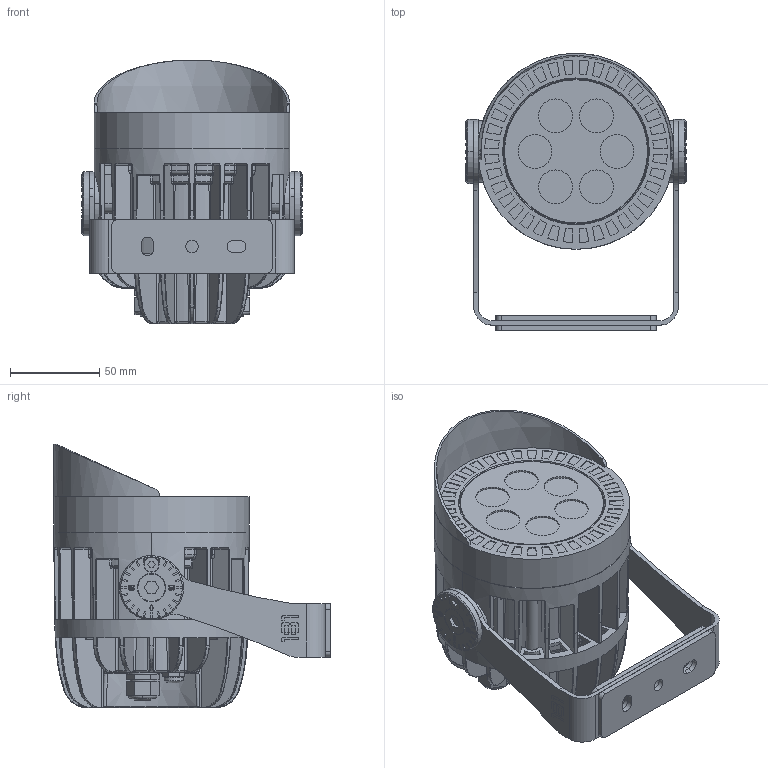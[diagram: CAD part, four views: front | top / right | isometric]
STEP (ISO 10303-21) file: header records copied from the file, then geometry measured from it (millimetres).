
FILE_DESCRIPTION (( 'STEP AP214' ), '1' );
FILE_NAME ('Beam F12 with louvre.STEP', '2025-08-21T12:54:18', ( '' ), ( '' ), 'SwSTEP 2.0', 'SolidWorks 2025', '' );
FILE_SCHEMA (( 'AUTOMOTIVE_DESIGN' ));
Length unit declared in the file: millimetre
Products named in the file (6): Beam F12 with louvre; BEAM F12 - BODY; Beam F12 - Bracket; Beam F12 - Louvre; Beam F12 - Bracket protector; Beam F12 - Knobs
Assembly tree (6 placements, depth 2):
  Beam F12 with louvre
    Beam F12 - Bracket
    BEAM F12 - BODY
    Beam F12 - Knobs
    Beam F12 - Louvre
    Beam F12 - Bracket protector  x2
Bounding box: 123.6 x 155.5 x 148.12 mm (x, y, z)
Volume: 786079.4 mm3; surface area: 161388.5 mm2
Topology: 11 solids, 15 shells, 2995 faces, 7631 edges, 4759 vertices
Faces by surface type: plane 1424, cylinder 723, bspline 314, torus 257, sphere 152, cone 125
Full cylindrical faces by diameter (mm): 6 x2, 6.42 x1, 7 x7, 8.3 x4, 10.9 x1, 14 x1, 16 x3, 19 x6, 108 x1, 110 x1
Entity records: 121636 total; most frequent: CARTESIAN_POINT 53855, ORIENTED_EDGE 14982, DIRECTION 12630, EDGE_CURVE 7491, VERTEX_POINT 4707, AXIS2_PLACEMENT_3D 4457, VECTOR 3716, LINE 3716
